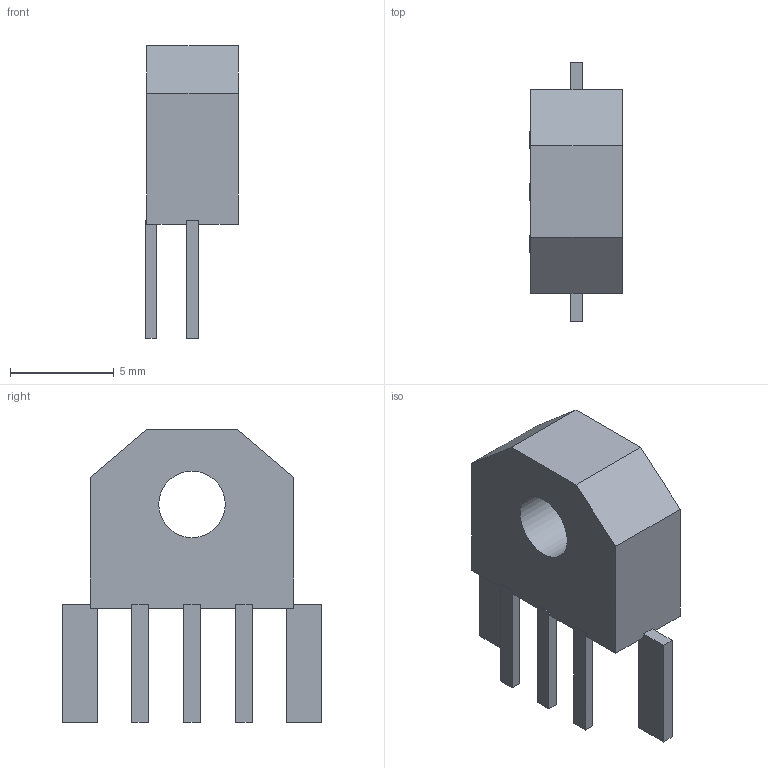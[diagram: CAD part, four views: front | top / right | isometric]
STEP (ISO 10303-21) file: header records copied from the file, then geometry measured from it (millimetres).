
FILE_DESCRIPTION(('Open CASCADE Model'),'2;1');
FILE_NAME('Open CASCADE Shape Model','2026-10-16T20:10:46',('Author'),( 'Open CASCADE'),'Open CASCADE STEP processor 7.9','Open CASCADE 7.9' ,'Unknown');
FILE_SCHEMA(('AUTOMOTIVE_DESIGN { 1 0 10303 214 1 1 1 1 }'));
Length unit declared in the file: millimetre
Products named in the file (1): Open CASCADE STEP translator 7.9 60
Bounding box: 4.45 x 12.5 x 14.1 mm (x, y, z)
Volume: 326.3 mm3; surface area: 431.5 mm2
Topology: 1 solids, 1 shells, 39 faces, 111 edges, 74 vertices
Faces by surface type: plane 38, cylinder 1
Full cylindrical faces by diameter (mm): 3.2 x1
Entity records: 2704 total; most frequent: CARTESIAN_POINT 447, DIRECTION 415, LINE 329, VECTOR 329, ORIENTED_EDGE 222, PCURVE 222, DEFINITIONAL_REPRESENTATION 222, EDGE_CURVE 111
